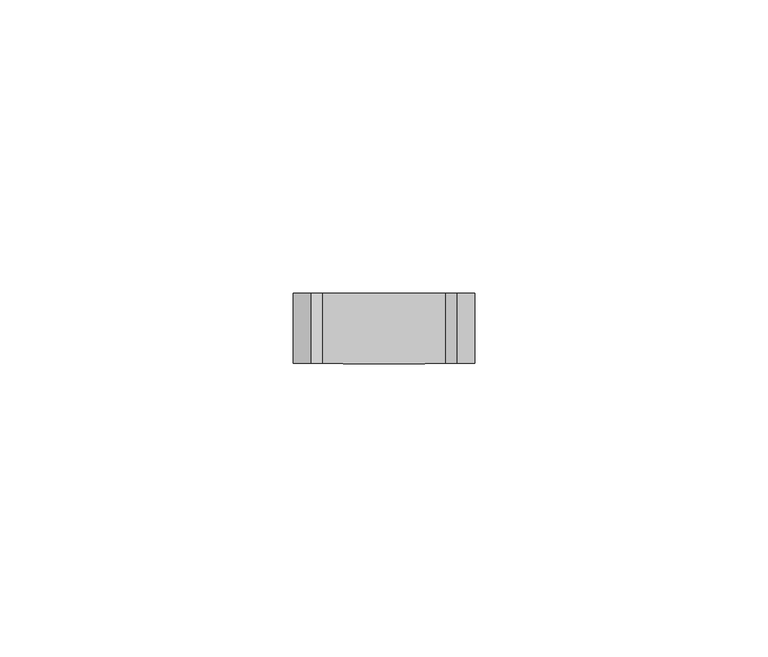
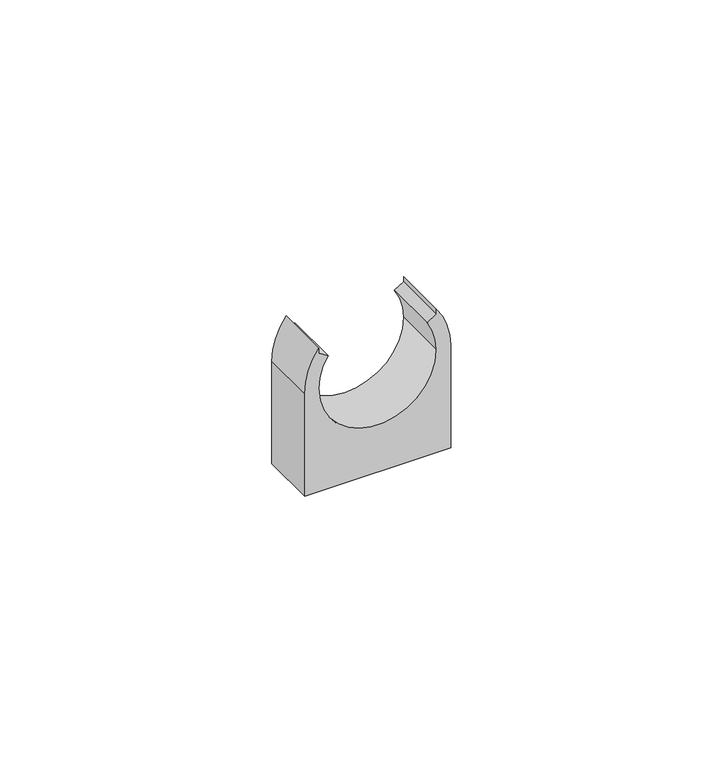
"""IFC4 building model written with IfcOpenShell, lengths in millimetres: cable carrier fitting geometry."""

from ifc_helpers import new_model, si_unit, point, frame, frame_2d, origin, place, context, project, spatial, polyline, circle_curve, trimmed, segment, composite_curve, outline, extrude, source, transform, mapped, element, save


def cable_carrier_fitting_83c2f6c6(model_context):
    return source(origin(), model_context, "Body", "SweptSolid", [
        extrude(outline(composite_curve([segment(polyline([(0.0, -15.5), (0.0, 15.5), (23.0, 15.5)]), True, "CONTINUOUS"), segment(trimmed(circle_curve(frame_2d((23.0, 0.0)), 15.5), [point((23.0, 15.5))], [point((32.1651514, 12.5))], False, "CARTESIAN"), True, "CONTINUOUS"), segment(polyline([(32.1651514, 12.5), (31.0498344, 12.5), (29.7678678, 10.5093276)]), True, "CONTINUOUS"), segment(trimmed(circle_curve(frame_2d((23.0, 0.0)), 12.5), [point((29.7678678, 10.5093276))], [point((23.0, 12.5))], True, "CARTESIAN"), True, "CONTINUOUS"), segment(trimmed(circle_curve(frame_2d((23.0, 0.0)), 12.5), [point((23.0, 12.5))], [point((23.0, -12.5))], True, "CARTESIAN"), True, "CONTINUOUS"), segment(trimmed(circle_curve(frame_2d((23.0, 0.0)), 12.5), [point((23.0, -12.5))], [point((29.7678678, -10.5093276))], True, "CARTESIAN"), True, "CONTINUOUS"), segment(polyline([(29.7678678, -10.5093276), (31.0498344, -12.5), (32.1651514, -12.5)]), True, "CONTINUOUS"), segment(trimmed(circle_curve(frame_2d((23.0, 0.0)), 15.5), [point((32.1651514, -12.5))], [point((23.0, -15.5))], False, "CARTESIAN"), True, "CONTINUOUS"), segment(polyline([(23.0, -15.5), (0.0, -15.5)]), True, "CONTINUOUS")], self_intersect=False)), frame((0.0, -6.0, 0.0), z_axis=(0.0, 1.0, 0.0), x_axis=(0.0, 0.0, 1.0)), (0.0, 0.0, 1.0), 12.0),
    ])


if __name__ == "__main__":
    model = new_model("IFC4")
    model_context = context("Model", 3, world=origin())
    ifc_project = project(units=[si_unit("LENGTHUNIT", "METRE", prefix="MILLI")], contexts=[model_context])
    site = spatial("IfcSite", under=ifc_project)
    building = spatial("IfcBuilding", under=site)
    placement = place(None, origin())
    cable_carrier_fitting_shape = cable_carrier_fitting_83c2f6c6(model_context)
    element("IfcCableCarrierFitting", 1, at=placement, inside=building, context=model_context, shape_type="MappedRepresentation", body=[
        mapped(cable_carrier_fitting_shape, transform((0.0, 0.0, 0.0), x_axis=(1.0, 0.0, 0.0), y_axis=(0.0, 1.0, 0.0), z_axis=(0.0, 0.0, 1.0))),
    ])
    save(model, "model.ifc")
